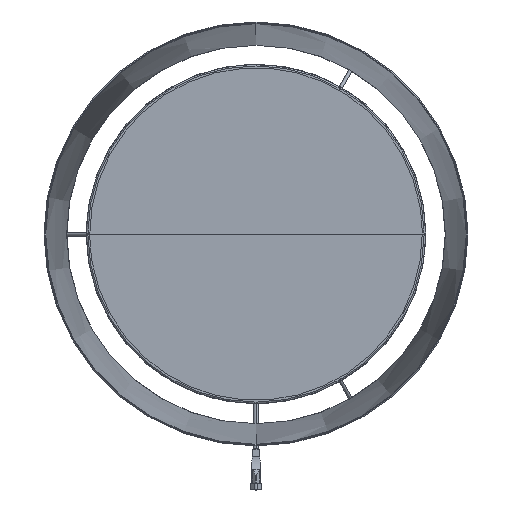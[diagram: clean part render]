
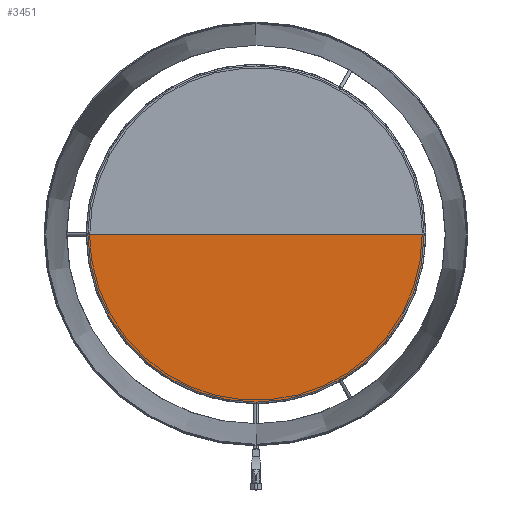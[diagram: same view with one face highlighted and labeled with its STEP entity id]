
A CAD part, top view. The second image highlights one B-rep face of the part: STEP entity #3451.
In plain terms, the highlighted planar face has unit normal (0, 0, 1) as drawn and (0, 0, -1) by its records, which use the part's own axes.
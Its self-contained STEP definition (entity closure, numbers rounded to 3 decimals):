
#339=PLANE('',#3841);
#545=FACE_OUTER_BOUND('',#770,.T.);
#770=EDGE_LOOP('',(#3079,#3080));
#1004=LINE('',#9099,#1230);
#1230=VECTOR('',#4793,304.8);
#1378=CIRCLE('',#3836,198.182);
#1662=VERTEX_POINT('',#8964);
#1663=VERTEX_POINT('',#8965);
#2142=EDGE_CURVE('',#1663,#1662,#1378,.T.);
#2145=EDGE_CURVE('',#1662,#1663,#1004,.T.);
#3079=ORIENTED_EDGE('',*,*,#2145,.T.);
#3080=ORIENTED_EDGE('',*,*,#2142,.T.);
#3451=ADVANCED_FACE('',(#545),#339,.T.);
#3836=AXIS2_PLACEMENT_3D('',#9093,#4782,#4783);
#3841=AXIS2_PLACEMENT_3D('',#9100,#4794,#4795);
#4782=DIRECTION('center_axis',(0.,0.,-1.));
#4783=DIRECTION('ref_axis',(-1.,0.,0.));
#4793=DIRECTION('',(-1.,0.,0.));
#4794=DIRECTION('center_axis',(0.,0.,-1.));
#4795=DIRECTION('ref_axis',(-1.,0.,0.));
#8964=CARTESIAN_POINT('',(198.182,0.,27.771));
#8965=CARTESIAN_POINT('',(-198.182,0.,27.771));
#9093=CARTESIAN_POINT('Origin',(0.,0.,27.771));
#9099=CARTESIAN_POINT('',(198.182,0.,27.771));
#9100=CARTESIAN_POINT('Origin',(0.,0.,27.771));
